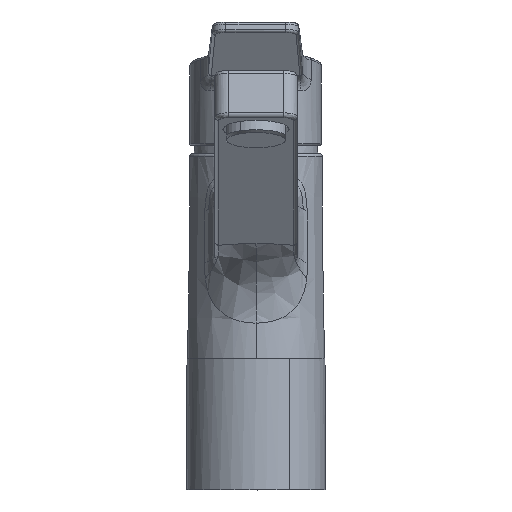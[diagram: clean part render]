
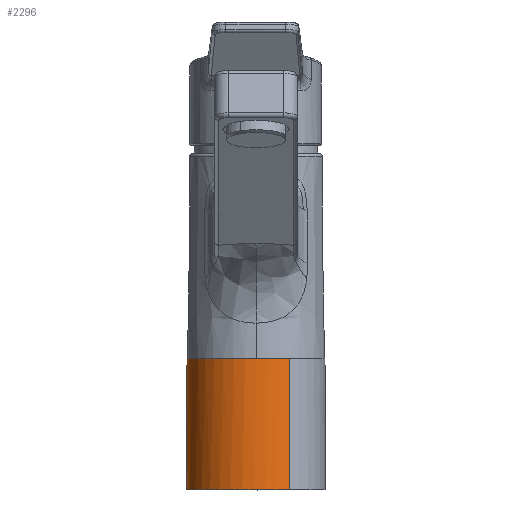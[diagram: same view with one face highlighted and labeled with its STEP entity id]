
A CAD part, top view. The second image highlights one B-rep face of the part: STEP entity #2296.
In plain terms, the highlighted cylindrical face has radius 25.5 mm (diameter 51 mm), a partial arc.
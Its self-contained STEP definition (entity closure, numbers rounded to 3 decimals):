
#157 = CARTESIAN_POINT ( 'NONE',  ( -12.225, 0.81, -22.378 ) ) ;
#190 = ORIENTED_EDGE ( 'NONE', *, *, #1050, .T. ) ;
#379 = EDGE_CURVE ( 'NONE', #2980, #6065, #4610, .T. ) ;
#438 = CARTESIAN_POINT ( 'NONE',  ( -12.225, -24.1, -22.378 ) ) ;
#597 = AXIS2_PLACEMENT_3D ( 'NONE', #959, #952, #936 ) ;
#637 = CARTESIAN_POINT ( 'NONE',  ( -12.225, -47.5, -22.378 ) ) ;
#936 = DIRECTION ( 'NONE',  ( 0., 0., 1. ) ) ;
#952 = DIRECTION ( 'NONE',  ( 0., 1., 0. ) ) ;
#959 = CARTESIAN_POINT ( 'NONE',  ( 0., 0.81, 0. ) ) ;
#1003 = DIRECTION ( 'NONE',  ( 0., 1., 0. ) ) ;
#1023 = DIRECTION ( 'NONE',  ( -0.479, 0., -0.878 ) ) ;
#1050 = EDGE_CURVE ( 'NONE', #3089, #2980, #4181, .T. ) ;
#1448 = ORIENTED_EDGE ( 'NONE', *, *, #1675, .F. ) ;
#1600 = EDGE_CURVE ( 'NONE', #1750, #6065, #3738, .T. ) ;
#1675 = EDGE_CURVE ( 'NONE', #3089, #1750, #3797, .T. ) ;
#1708 = CARTESIAN_POINT ( 'NONE',  ( 0., -24.1, 0. ) ) ;
#1750 = VERTEX_POINT ( 'NONE', #157 ) ;
#1764 = ORIENTED_EDGE ( 'NONE', *, *, #379, .T. ) ;
#2275 = CARTESIAN_POINT ( 'NONE',  ( 12.225, -47.5, 22.378 ) ) ;
#2296 = ADVANCED_FACE ( 'NONE', ( #3284 ), #3160, .T. ) ;
#2529 = DIRECTION ( 'NONE',  ( 0., 0., 1. ) ) ;
#2542 = DIRECTION ( 'NONE',  ( 0., 1., 0. ) ) ;
#2550 = CARTESIAN_POINT ( 'NONE',  ( 0., -47.5, 0. ) ) ;
#2980 = VERTEX_POINT ( 'NONE', #2275 ) ;
#3021 = DIRECTION ( 'NONE',  ( 0., 1., 0. ) ) ;
#3089 = VERTEX_POINT ( 'NONE', #637 ) ;
#3160 = CYLINDRICAL_SURFACE ( 'NONE', #3940, 25.5 ) ;
#3284 = FACE_OUTER_BOUND ( 'NONE', #5482, .T. ) ;
#3707 = VECTOR ( 'NONE', #1003, 1000. ) ;
#3738 = CIRCLE ( 'NONE', #597, 25.5 ) ;
#3797 = LINE ( 'NONE', #438, #3707 ) ;
#3940 = AXIS2_PLACEMENT_3D ( 'NONE', #1708, #3969, #1023 ) ;
#3969 = DIRECTION ( 'NONE',  ( 0., 1., 0. ) ) ;
#4097 = CARTESIAN_POINT ( 'NONE',  ( 12.225, 0.81, 22.378 ) ) ;
#4181 = CIRCLE ( 'NONE', #4237, 25.5 ) ;
#4237 = AXIS2_PLACEMENT_3D ( 'NONE', #2550, #2542, #2529 ) ;
#4460 = VECTOR ( 'NONE', #3021, 1000. ) ;
#4610 = LINE ( 'NONE', #5607, #4460 ) ;
#4645 = ORIENTED_EDGE ( 'NONE', *, *, #1600, .F. ) ;
#5482 = EDGE_LOOP ( 'NONE', ( #190, #1764, #4645, #1448 ) ) ;
#5607 = CARTESIAN_POINT ( 'NONE',  ( 12.225, -24.1, 22.378 ) ) ;
#6065 = VERTEX_POINT ( 'NONE', #4097 ) ;
